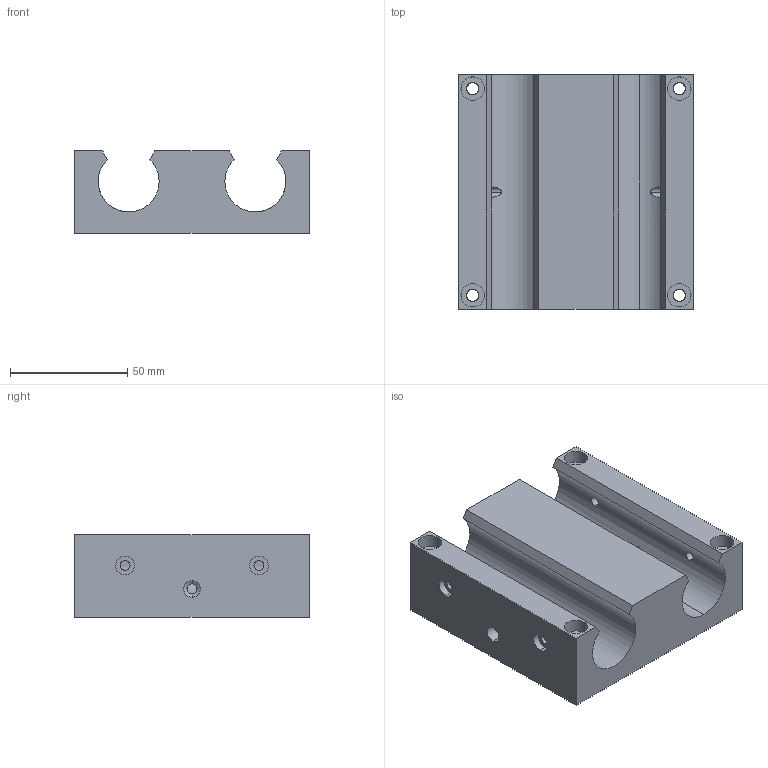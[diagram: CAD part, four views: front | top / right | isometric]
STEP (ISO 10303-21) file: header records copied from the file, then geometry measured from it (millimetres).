
FILE_DESCRIPTION (( 'STEP AP214' ), '1' );
FILE_NAME ('KQSO-16.step', '2020-03-04T13:34:48', ( '' ), ( '' ), 'SwSTEP 2.0', 'SolidWorks 2019', '' );
FILE_SCHEMA (( 'AUTOMOTIVE_DESIGN' ));
Length unit declared in the file: millimetre
Products named in the file (1): KQSO-16
Bounding box: 100 x 100 x 35 mm (x, y, z)
Volume: 231943.6 mm3; surface area: 44886.5 mm2
Topology: 1 solids, 1 shells, 85 faces, 201 edges, 129 vertices
Faces by surface type: cylinder 53, plane 24, cone 8
Entity records: 3071 total; most frequent: CARTESIAN_POINT 754, DIRECTION 455, ORIENTED_EDGE 398, EDGE_CURVE 199, AXIS2_PLACEMENT_3D 182, VERTEX_POINT 129, EDGE_LOOP 118, CIRCLE 96
